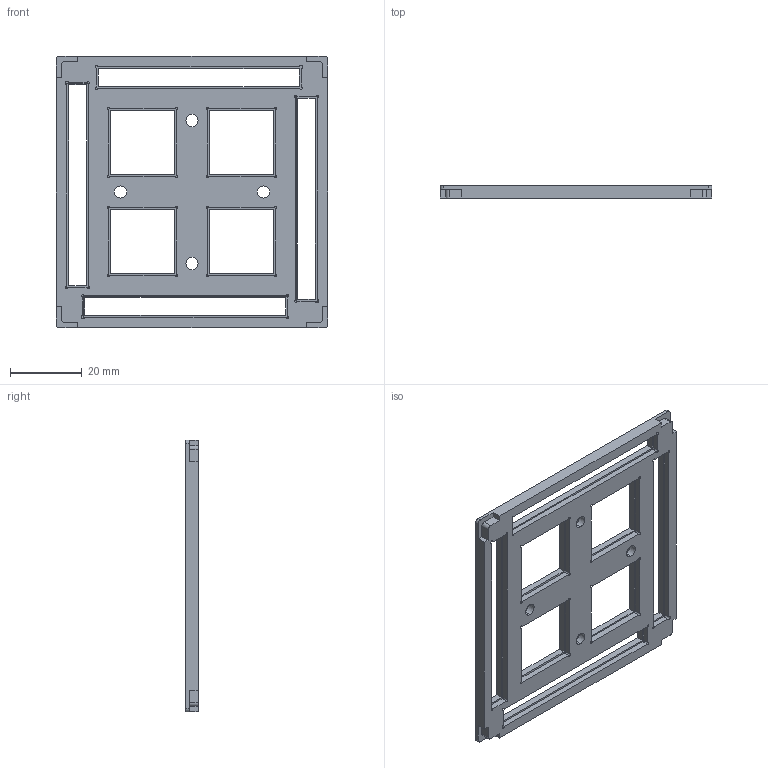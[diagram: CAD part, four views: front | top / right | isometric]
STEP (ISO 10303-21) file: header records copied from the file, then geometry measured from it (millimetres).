
FILE_DESCRIPTION (( 'STEP AP214' ), '1' );
FILE_NAME ('Top_Lid.STEP', '2025-01-13T17:29:51', ( '' ), ( '' ), 'SwSTEP 2.0', 'SolidWorks 2022', '' );
FILE_SCHEMA (( 'AUTOMOTIVE_DESIGN' ));
Length unit declared in the file: millimetre
Products named in the file (1): Top_Lid
Bounding box: 76 x 3.5 x 76 mm (x, y, z)
Volume: 10643.9 mm3; surface area: 11002.9 mm2
Topology: 1 solids, 1 shells, 241 faces, 677 edges, 446 vertices
Faces by surface type: plane 134, cylinder 99, cone 8
Entity records: 7895 total; most frequent: DIRECTION 1391, CARTESIAN_POINT 1365, ORIENTED_EDGE 1354, EDGE_CURVE 677, AXIS2_PLACEMENT_3D 472, VECTOR 447, LINE 447, VERTEX_POINT 446
